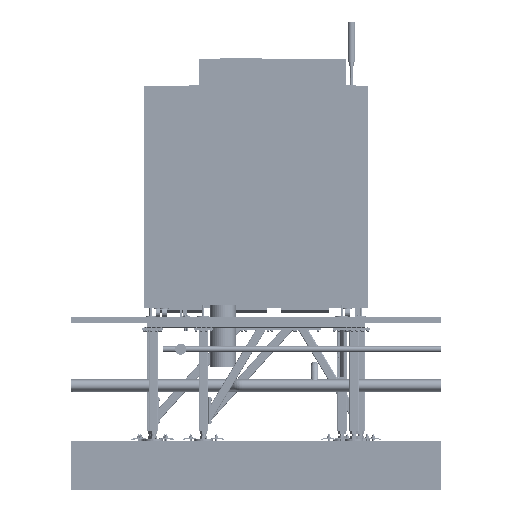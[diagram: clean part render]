
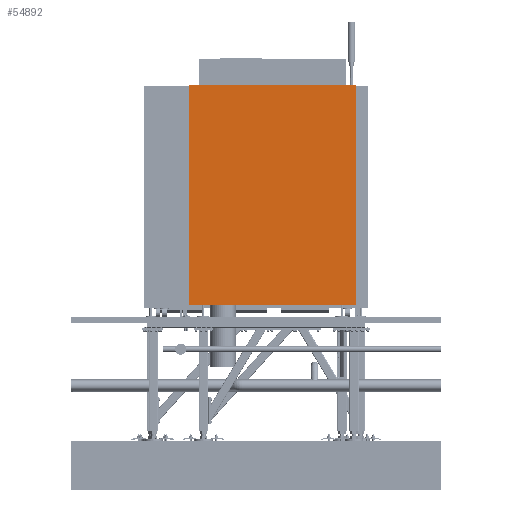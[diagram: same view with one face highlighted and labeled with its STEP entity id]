
A CAD part, front view. The second image highlights one B-rep face of the part: STEP entity #54892.
In plain terms, the highlighted planar face has unit normal (0, -1, 0).
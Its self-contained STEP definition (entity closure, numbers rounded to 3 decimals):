
#3792 = CARTESIAN_POINT ( 'NONE',  ( 41661.768, 32692.541, 6489.333 ) ) ;
#10822 = PLANE ( 'NONE',  #78124 ) ;
#13003 = EDGE_CURVE ( 'NONE', #49292, #95836, #47141, .T. ) ;
#13870 = CARTESIAN_POINT ( 'NONE',  ( 40986.088, 32692.541, 7379.308 ) ) ;
#15420 = ORIENTED_EDGE ( 'NONE', *, *, #19878, .F. ) ;
#17773 = CARTESIAN_POINT ( 'NONE',  ( 41661.768, 32692.541, 7379.308 ) ) ;
#18081 = VECTOR ( 'NONE', #36442, 1000. ) ;
#18911 = DIRECTION ( 'NONE',  ( 0., 1., 0. ) ) ;
#19878 = EDGE_CURVE ( 'NONE', #89426, #100302, #79003, .T. ) ;
#19962 = LINE ( 'NONE', #13870, #85296 ) ;
#20558 = EDGE_LOOP ( 'NONE', ( #85281, #24496, #15420, #22901 ) ) ;
#22901 = ORIENTED_EDGE ( 'NONE', *, *, #103798, .T. ) ;
#24496 = ORIENTED_EDGE ( 'NONE', *, *, #92614, .F. ) ;
#32392 = CARTESIAN_POINT ( 'NONE',  ( 41661.768, 32692.541, 5599.357 ) ) ;
#36442 = DIRECTION ( 'NONE',  ( 0., 0., 1. ) ) ;
#37300 = VECTOR ( 'NONE', #59283, 1000. ) ;
#47141 = LINE ( 'NONE', #3792, #18081 ) ;
#47375 = LINE ( 'NONE', #74027, #37300 ) ;
#49292 = VERTEX_POINT ( 'NONE', #32392 ) ;
#53980 = CARTESIAN_POINT ( 'NONE',  ( 40310.408, 32692.541, 6489.333 ) ) ;
#54892 = ADVANCED_FACE ( 'NONE', ( #77867 ), #10822, .F. ) ;
#57846 = CARTESIAN_POINT ( 'NONE',  ( 40310.408, 32692.541, 5599.357 ) ) ;
#59283 = DIRECTION ( 'NONE',  ( 1., 0., 0. ) ) ;
#59495 = CARTESIAN_POINT ( 'NONE',  ( 40310.408, 32692.541, 7379.308 ) ) ;
#66951 = CARTESIAN_POINT ( 'NONE',  ( 40986.088, 32692.541, 6489.333 ) ) ;
#74027 = CARTESIAN_POINT ( 'NONE',  ( 40986.088, 32692.541, 5599.357 ) ) ;
#75383 = DIRECTION ( 'NONE',  ( 0., 0., 1. ) ) ;
#77867 = FACE_OUTER_BOUND ( 'NONE', #20558, .T. ) ;
#78124 = AXIS2_PLACEMENT_3D ( 'NONE', #66951, #18911, #75383 ) ;
#79003 = LINE ( 'NONE', #53980, #95364 ) ;
#81723 = DIRECTION ( 'NONE',  ( 1., 0., 0. ) ) ;
#85281 = ORIENTED_EDGE ( 'NONE', *, *, #13003, .T. ) ;
#85296 = VECTOR ( 'NONE', #81723, 1000. ) ;
#86921 = DIRECTION ( 'NONE',  ( 0., 0., 1. ) ) ;
#89426 = VERTEX_POINT ( 'NONE', #57846 ) ;
#92614 = EDGE_CURVE ( 'NONE', #100302, #95836, #19962, .T. ) ;
#95364 = VECTOR ( 'NONE', #86921, 1000. ) ;
#95836 = VERTEX_POINT ( 'NONE', #17773 ) ;
#100302 = VERTEX_POINT ( 'NONE', #59495 ) ;
#103798 = EDGE_CURVE ( 'NONE', #89426, #49292, #47375, .T. ) ;
